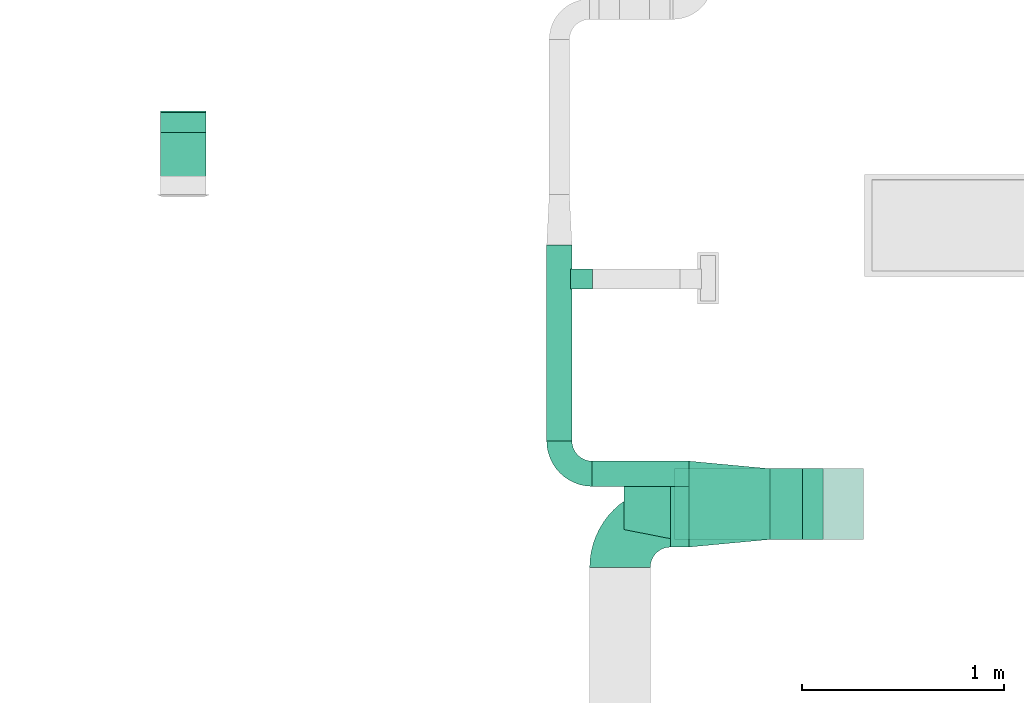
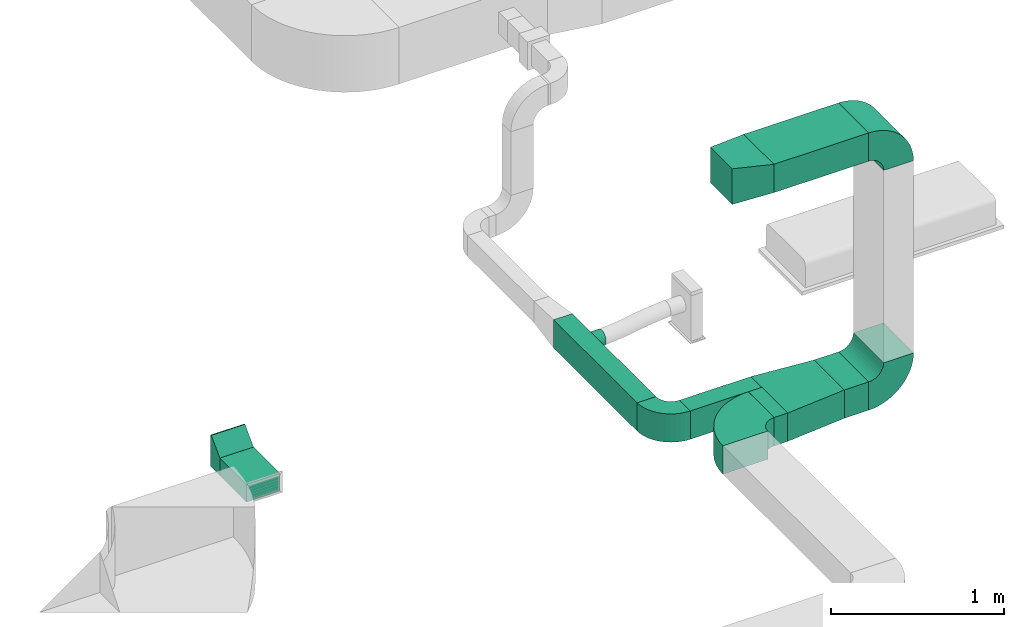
# One storey, part 27 of 60: 8 flow fittings, 6 flow segments.
"""IFC2X3 building model written with IfcOpenShell, lengths in millimetres."""

from ifc_helpers import new_model, entity, si_unit, converted_unit, derived_unit, direction, frame, frame_2d, origin, origin_2d_with_axis, place, context, subcontext, project, spatial, polyline, circle_curve, parameter, trimmed, segment, composite_curve, rectangle, outline, extrude, faceted_brep, source, transform, mapped, material, type_object, type_shapes, element, save


model = new_model("IFC2X3")

# Units and contexts
model_context = context("Model", 3, precision=0.01, world=origin(), true_north=direction((6.123233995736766e-17, 1.0)))
body_context = subcontext(model_context, "Body", "Model", "MODEL_VIEW")
ifc_project = project(units=[si_unit("LENGTHUNIT", "METRE", prefix="MILLI"), converted_unit("PLANEANGLEUNIT", "DEGREE", entity("IfcPlaneAngleMeasure", 0.017453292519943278), si_unit("PLANEANGLEUNIT", "RADIAN"), dimensions=[0, 0, 0, 0, 0, 0, 0]), si_unit("AREAUNIT", "SQUARE_METRE"), derived_unit("THERMALTRANSMITTANCEUNIT", [(si_unit("MASSUNIT", "GRAM", prefix="KILO"), 1), (si_unit("THERMODYNAMICTEMPERATUREUNIT", "KELVIN"), -1), (si_unit("TIMEUNIT", "SECOND"), -3)])], contexts=[model_context])

# Site, building, storey
site_placement = place(None, origin())
site = spatial("IfcSite", under=ifc_project, at=site_placement, Name="Default", CompositionType="ELEMENT")
building_placement = place(site_placement, origin())
building = spatial("IfcBuilding", under=site, at=building_placement, Name="Praça Pedro II, 1301 - Centro (Sul), Teresina - PI, 64001-100", CompositionType="ELEMENT")
storey_placement = place(building_placement, frame((0.0, 0.0, 6040.0)))
storey = spatial("IfcBuildingStorey", under=building, at=storey_placement, Name="2PAV", CompositionType="ELEMENT", Elevation=6040.0)

# Flow segments
duct_segment_type = type_object("IfcDuctSegmentType", Name="Duto retangular:Raios cotovelos / torneiras", PredefinedType="NOTDEFINED")
flow_segment_1_placement = place(storey_placement, origin())
element("IfcFlowSegment", 1, at=flow_segment_1_placement, inside=storey, type_object=duct_segment_type, Name="Duto retangular:Raios cotovelos / torneiras", ObjectType="Duto retangular:Raios cotovelos / torneiras", context=body_context, shape_type="SweptSolid", body=[
    extrude(rectangle(XDim=306.2258346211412, YDim=225.00000000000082, at=frame_2d((4.334310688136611e-12, 0.0), x_axis=(1.0, 0.0))), frame((34186.88553093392, -64896.22932506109, 1978.5000001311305), z_axis=(0.0, 0.0, 1.0), x_axis=(0.0, 1.0, 0.0)), (0.0, 0.0, 1.0), 124.99999999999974),
])
flow_segment_2_placement = place(storey_placement, origin())
element("IfcFlowSegment", 2, at=flow_segment_2_placement, inside=storey, type_object=duct_segment_type, Name="Duto retangular:Raios cotovelos / torneiras", ObjectType="Duto retangular:Raios cotovelos / torneiras", context=body_context, shape_type="SweptSolid", body=[
    extrude(rectangle(XDim=967.1188237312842, YDim=125.0000000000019, at=frame_2d((4.348521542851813e-12, 2.1671553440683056e-12), x_axis=(1.0, 0.0))), frame((36045.36892569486, -65782.90165423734, 2550.0), z_axis=(0.0, 0.0, 1.0), x_axis=(0.0, -1.0, 0.0)), (0.0, 0.0, 1.0), 200.0),
])
flow_segment_3_placement = place(storey_placement, origin())
element("IfcFlowSegment", 3, at=flow_segment_3_placement, inside=storey, type_object=duct_segment_type, Name="Duto retangular:Raios cotovelos / torneiras", ObjectType="Duto retangular:Raios cotovelos / torneiras", context=body_context, shape_type="SweptSolid", body=[
    extrude(rectangle(XDim=90.41113618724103, YDim=300.0000000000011, at=origin_2d_with_axis()), frame((36640.57449378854, -66641.461066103, 2550.0)), (0.0, 0.0, 1.0), 200.0),
])
flow_segment_4_placement = place(storey_placement, origin())
element("IfcFlowSegment", 4, at=flow_segment_4_placement, inside=storey, type_object=duct_segment_type, Name="Duto retangular:Raios cotovelos / torneiras", ObjectType="Duto retangular:Raios cotovelos / torneiras", context=body_context, shape_type="SweptSolid", body=[
    extrude(rectangle(XDim=162.8410096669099, YDim=349.9999999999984, at=frame_2d((0.0, 4.334310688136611e-12), x_axis=(1.0, 0.0))), frame((37167.20056671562, -66578.96106610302, 2550.0)), (0.0, 0.0, 1.0), 200.0),
])
flow_segment_5_placement = place(storey_placement, origin())
element("IfcFlowSegment", 5, at=flow_segment_5_placement, inside=storey, type_object=duct_segment_type, Name="Duto retangular:Raios cotovelos / torneiras", ObjectType="Duto retangular:Raios cotovelos / torneiras", context=body_context, shape_type="SweptSolid", body=[
    extrude(rectangle(XDim=477.9111361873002, YDim=124.99999999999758, at=frame_2d((0.0, -4.330757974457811e-12), x_axis=(1.0, 0.0))), frame((36446.82449378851, -66428.96106610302, 2550.0), z_axis=(0.0, 0.0, 1.0), x_axis=(-1.0, 0.0, 0.0)), (0.0, 0.0, 1.0), 200.0),
])
flow_segment_6_placement = place(storey_placement, origin())
element("IfcFlowSegment", 6, at=flow_segment_6_placement, inside=storey, type_object=duct_segment_type, Name="Duto retangular:Raios cotovelos / torneiras", ObjectType="Duto retangular:Raios cotovelos / torneiras", context=body_context, shape_type="SweptSolid", body=[
    extrude(rectangle(XDim=633.5228945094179, YDim=349.9999999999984, at=frame_2d((-2.1600499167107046e-12, 4.334310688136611e-12), x_axis=(1.0, 0.0))), frame((36931.85962429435, -66578.96106610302, 4309.0), z_axis=(0.0, 0.0, 1.0), x_axis=(-1.0, 0.0, 0.0)), (0.0, 0.0, 1.0), 200.0000000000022),
])

# Flow fittings
ifc_material = material(Name="<Unnamed>")
duct_fitting_type_1 = type_object("IfcDuctFittingType", Name="M_Rectangular Tap - Beveled:Standard", PredefinedType="NOTDEFINED", material=ifc_material)
shared_shape_1 = source(origin(), body_context, "Body", "SweptSolid", [
    extrude(outline(polyline([(-115.0, -62.438399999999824), (10.0, -62.438399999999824), (110.0, 37.56159999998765), (110.0, 43.6576000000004), (-115.0, 43.65759999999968), (-115.0, -62.438399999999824)])), frame((37.56160000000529, 52.50000000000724, -112.49999999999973), z_axis=(0.0, 0.0, 1.0), x_axis=(0.0, 1.0, 0.0)), (0.0, 0.0, 1.0), 224.99999999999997),
])
type_shapes(duct_fitting_type_1, [shared_shape_1])
flow_fitting_1_placement = place(storey_placement, frame((34186.88553093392, -64643.1164077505, 2041.0000001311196), z_axis=(-1.0, 0.0, 0.0), x_axis=(0.0, -1.0, 0.0)))
element("IfcFlowFitting", 7, at=flow_fitting_1_placement, inside=storey, type_object=duct_fitting_type_1, material=ifc_material, Name="M_Rectangular Tap - Beveled:Standard", ObjectType="M_Rectangular Tap - Beveled:Standard", context=body_context, shape_type="MappedRepresentation", body=[
    mapped(shared_shape_1, transform((0.0, 0.0, 0.0), scale=1.0)),
])
duct_fitting_type_2 = type_object("IfcDuctFittingType", Name="M_Encaixe de duto redondo:Padrão", PredefinedType="NOTDEFINED", material=ifc_material)
shared_shape_2 = source(origin(), body_context, "Body", "Brep", [
    faceted_brep([(101.60000000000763, 50.0, 0.0), (101.60000000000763, 48.296291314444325, 12.940952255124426), (101.60000000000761, 43.301270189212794, 25.0), (101.6000000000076, 35.35533905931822, 35.35533905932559), (101.60000000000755, 25.0, 43.30127018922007), (101.60000000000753, 12.94095225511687, 48.29629131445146), (101.6000000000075, 0.0, 50.0), (101.60000000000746, -12.940952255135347, 48.29629131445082), (101.60000000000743, -25.0, 43.30127018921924), (101.6000000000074, -35.35533905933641, 35.355339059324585), (101.60000000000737, -43.301270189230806, 25.0), (101.60000000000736, -48.296291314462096, 12.940952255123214), (101.60000000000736, -50.0, 0.0), (101.60000000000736, -48.29629131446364, -12.94095225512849), (101.60000000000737, -43.301270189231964, -25.0), (101.6000000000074, -35.35533905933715, -35.35533905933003), (101.60000000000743, -25.0, -43.30127018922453), (101.60000000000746, -12.94095225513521, -48.29629131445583), (101.6000000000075, 0.0, -50.0), (101.60000000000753, 12.9409522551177, -48.29629131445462), (101.60000000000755, 25.0, -43.30127018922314), (101.6000000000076, 35.35533905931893, -35.35533905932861), (101.60000000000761, 43.30127018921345, -25.0), (101.60000000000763, 48.2962913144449, -12.940952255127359), (0.0, 12.940952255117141, 48.29629131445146), (-6.0959999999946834, 12.94095225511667, 48.29629131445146), (-6.095999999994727, 0.0, 50.0), (0.0, 0.0, 50.0), (0.0, 25.0, 43.30127018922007), (-6.0959999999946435, 25.0, 43.30127018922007), (0.0, 35.35533905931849, 35.35533905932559), (-6.095999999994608, 35.35533905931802, 35.35533905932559), (0.0, 48.296291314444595, 12.940952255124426), (-6.095999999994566, 48.296291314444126, 12.940952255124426), (-6.095999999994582, 43.3012701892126, 25.0), (0.0, 43.301270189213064, 25.0), (0.0, 50.0, 0.0), (-6.09599999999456, 50.0, 0.0), (0.0, 43.30127018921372, -25.0), (-6.095999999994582, 43.30127018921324, -25.0), (-6.095999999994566, 48.296291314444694, -12.940952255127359), (0.0, 48.29629131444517, -12.940952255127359), (0.0, 35.3553390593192, -35.35533905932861), (-6.095999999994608, 35.35533905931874, -35.35533905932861), (0.0, 12.940952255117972, -48.29629131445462), (-6.0959999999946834, 12.940952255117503, -48.29629131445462), (-6.0959999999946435, 25.0, -43.30127018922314), (0.0, 25.0, -43.30127018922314), (0.0, 0.0, -50.0), (-6.095999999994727, 0.0, -50.0), (0.0, -12.940952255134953, -48.29629131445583), (-6.09599999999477, -12.940952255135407, -48.29629131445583), (0.0, -25.0, -43.30127018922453), (-6.0959999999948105, -25.0, -43.30127018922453), (0.0, -35.35533905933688, -35.35533905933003), (-6.095999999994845, -35.355339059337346, -35.35533905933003), (0.0, -48.29629131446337, -12.94095225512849), (-6.095999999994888, -48.29629131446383, -12.94095225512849), (-6.095999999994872, -43.30127018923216, -25.0), (0.0, -43.301270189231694, -25.0), (0.0, -50.0, 0.0), (-6.095999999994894, -50.0, 0.0), (0.0, -48.296291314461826, 12.940952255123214), (-6.095999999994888, -48.296291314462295, 12.940952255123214), (0.0, -43.30127018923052, 25.0), (-6.095999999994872, -43.301270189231, 25.0), (0.0, -35.35533905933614, 35.355339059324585), (-6.095999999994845, -35.35533905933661, 35.355339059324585), (0.0, -12.940952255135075, 48.29629131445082), (-6.09599999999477, -12.940952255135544, 48.29629131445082), (-6.0959999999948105, -25.0, 43.30127018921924), (0.0, -25.0, 43.30127018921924)], [[[0, 1, 2, 3, 4, 5, 6, 7, 8, 9, 10, 11, 12, 13, 14, 15, 16, 17, 18, 19, 20, 21, 22, 23]], [[24, 25, 26, 27, 6, 5]], [[28, 29, 25, 24, 5, 4]], [[4, 3, 30, 31, 29, 28]], [[32, 33, 34, 35, 2, 1]], [[36, 37, 33, 32, 1, 0]], [[3, 2, 35, 34, 31, 30]], [[23, 22, 38, 39, 40, 41]], [[0, 23, 41, 40, 37, 36]], [[22, 21, 42, 43, 39, 38]], [[44, 45, 46, 47, 20, 19]], [[48, 49, 45, 44, 19, 18]], [[21, 20, 47, 46, 43, 42]], [[50, 51, 49, 48, 18, 17]], [[52, 53, 51, 50, 17, 16]], [[16, 15, 54, 55, 53, 52]], [[56, 57, 58, 59, 14, 13]], [[60, 61, 57, 56, 13, 12]], [[15, 14, 59, 58, 55, 54]], [[62, 63, 61, 60, 12, 11]], [[64, 65, 63, 62, 11, 10]], [[10, 9, 66, 67, 65, 64]], [[68, 69, 70, 71, 8, 7]], [[27, 26, 69, 68, 7, 6]], [[9, 8, 71, 70, 67, 66]], [[49, 51, 53, 55, 58, 57, 61, 63, 65, 67, 70, 69, 26, 25, 29, 31, 34, 33, 37, 40, 39, 43, 46, 45]]]),
])
type_shapes(duct_fitting_type_2, [shared_shape_2])
flow_fitting_2_placement = place(storey_placement, frame((36107.86892569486, -65466.41699191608, 2650.0), z_axis=(0.0, 0.0, -1.0), x_axis=(1.0, 0.0, 0.0)))
element("IfcFlowFitting", 8, at=flow_fitting_2_placement, inside=storey, type_object=duct_fitting_type_2, material=ifc_material, Name="M_Encaixe de duto redondo:Padrão", ObjectType="M_Encaixe de duto redondo:Padrão", context=body_context, shape_type="MappedRepresentation", body=[
    mapped(shared_shape_2, transform((0.0, 0.0, 0.0), scale=1.0)),
])
duct_fitting_type_3 = type_object("IfcDuctFittingType", Name="BTS vanes:1 Splitter Vanes", PredefinedType="NOTDEFINED", material=ifc_material)
shared_shape_3 = source(origin(), body_context, "Body", "SweptSolid", [
    extrude(outline(composite_curve([segment(polyline([(-275.0, -125.0), (25.0, -125.0)]), True, "CONTINUOUS"), segment(trimmed(circle_curve(frame_2d((125.0, -125.0), x_axis=(0.0, 1.0)), 99.99999999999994), [parameter(0.0)], [parameter(90.00000000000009)], True, "PARAMETER"), False, "CONTINUOUS"), segment(polyline([(125.0, -25.0), (125.0, 275.0)]), True, "CONTINUOUS"), segment(trimmed(circle_curve(frame_2d((125.0, -125.0), x_axis=(0.0, 1.0)), 400.0), [parameter(0.0)], [parameter(90.00000000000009)], True, "PARAMETER"), True, "CONTINUOUS")], self_intersect=False)), frame((-125.0, 125.0, -100.0), z_axis=(0.0, 0.0, 1.0), x_axis=(-1.0, 0.0, 0.0)), (0.0, 0.0, 1.0), 200.0),
    extrude(outline(composite_curve([segment(polyline([(-77.63157894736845, -59.21052631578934), (-40.78947368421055, -59.21052631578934)]), True, "CONTINUOUS"), segment(trimmed(circle_curve(frame_2d((59.21052631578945, -59.21052631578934), x_axis=(0.0, 1.0)), 100.0), [parameter(0.0)], [parameter(90.00000000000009)], True, "PARAMETER"), False, "CONTINUOUS"), segment(polyline([(59.21052631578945, 40.78947368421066), (59.21052631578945, 77.63157894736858)]), True, "CONTINUOUS"), segment(trimmed(circle_curve(frame_2d((59.21052631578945, -59.21052631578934), x_axis=(0.0, 1.0)), 136.84210526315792), [parameter(0.0)], [parameter(90.00000000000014)], True, "PARAMETER"), True, "CONTINUOUS")], self_intersect=False)), frame((-190.78947368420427, 190.78947368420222, -100.0), z_axis=(0.0, 0.0, 1.0), x_axis=(-1.0, 0.0, 0.0)), (0.0, 0.0, 1.0), 200.0),
])
type_shapes(duct_fitting_type_3, [shared_shape_3])
flow_fitting_3_placement = place(storey_placement, frame((36345.36892569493, -66641.46106610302, 2650.0), z_axis=(0.0, 0.0, 1.0), x_axis=(-1.0, 0.0, 0.0)))
element("IfcFlowFitting", 9, at=flow_fitting_3_placement, inside=storey, type_object=duct_fitting_type_3, material=ifc_material, Name="BTS vanes:1 Splitter Vanes", ObjectType="BTS vanes:1 Splitter Vanes", context=body_context, shape_type="MappedRepresentation", body=[
    mapped(shared_shape_3, transform((0.0, 0.0, 0.0), scale=1.0)),
])
duct_fitting_type_4 = type_object("IfcDuctFittingType", Name="BTS vanes:1 Splitter Vanes", PredefinedType="NOTDEFINED", material=ifc_material)
shared_shape_4 = source(origin(), body_context, "Body", "SweptSolid", [
    extrude(outline(composite_curve([segment(polyline([(-200.0, -100.0), (0.0, -100.0)]), True, "CONTINUOUS"), segment(trimmed(circle_curve(frame_2d((100.0, -100.0), x_axis=(0.0, 1.0)), 99.99999999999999), [parameter(0.0)], [parameter(90.00000000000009)], True, "PARAMETER"), False, "CONTINUOUS"), segment(polyline([(100.0, 0.0), (100.0, 200.0)]), True, "CONTINUOUS"), segment(trimmed(circle_curve(frame_2d((100.0, -100.0), x_axis=(0.0, 1.0)), 300.0), [parameter(0.0)], [parameter(90.00000000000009)], True, "PARAMETER"), True, "CONTINUOUS")], self_intersect=False)), frame((-100.0, 100.0, -175.0), z_axis=(0.0, 0.0, 1.0), x_axis=(-1.0, 0.0, 0.0)), (0.0, 0.0, 1.0), 350.0),
    extrude(outline(composite_curve([segment(polyline([(-77.63157894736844, -59.21052631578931), (-40.789473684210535, -59.21052631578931)]), True, "CONTINUOUS"), segment(trimmed(circle_curve(frame_2d((59.21052631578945, -59.21052631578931), x_axis=(0.0, 1.0)), 99.99999999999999), [parameter(0.0)], [parameter(90.00000000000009)], True, "PARAMETER"), False, "CONTINUOUS"), segment(polyline([(59.21052631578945, 40.78947368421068), (59.21052631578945, 77.63157894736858)]), True, "CONTINUOUS"), segment(trimmed(circle_curve(frame_2d((59.21052631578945, -59.21052631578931), x_axis=(0.0, 1.0)), 136.84210526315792), [parameter(0.0)], [parameter(90.00000000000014)], True, "PARAMETER"), True, "CONTINUOUS")], self_intersect=False)), frame((-140.78947368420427, 140.78947368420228, -175.0), z_axis=(0.0, 0.0, 1.0), x_axis=(-1.0, 0.0, 0.0)), (0.0, 0.0, 1.0), 350.0),
])
type_shapes(duct_fitting_type_4, [shared_shape_4])
for number, where, z_axis, x_axis, name in (
    (10, (37448.62107154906, -66578.96106610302, 2650.0), (0.0, -1.0, 0.0), (1.0, 0.0, 0.0), "BTS vanes:1 Splitter Vanes"),
    (11, (37448.62107154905, -66578.96106610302, 4409.0), (0.0, -1.0, 0.0), (0.0, 0.0, 1.0), "BTS vanes:1 Splitter Vanes"),
):
    element("IfcFlowFitting", number, at=place(storey_placement, frame(where, z_axis=z_axis, x_axis=x_axis)), inside=storey, type_object=duct_fitting_type_4, material=ifc_material, Name=name, ObjectType="BTS vanes:1 Splitter Vanes", context=body_context, shape_type="MappedRepresentation", body=[
        mapped(shared_shape_4, transform((0.0, 0.0, 0.0), scale=1.0)),
    ])
duct_fitting_type_5 = type_object("IfcDuctFittingType", Name="M_Rectangular Transition - L:250 mm (L)", PredefinedType="NOTDEFINED", material=ifc_material)
shared_shape_5 = source(origin(), body_context, "Body", "Brep", [
    faceted_brep([(250.0, -125.95000000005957, 125.94999999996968), (250.0, -125.95000000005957, -125.95000000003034), (250.0, 125.94999999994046, -125.95000000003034), (250.0, 125.94999999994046, 125.94999999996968), (0.0, -175.0, 100.0), (0.0, 175.0, 100.0), (0.0, 175.0, -100.0), (0.0, -175.0, -100.0)], [[[0, 1, 2, 3]], [[4, 5, 6, 7]], [[4, 7, 1, 0]], [[7, 6, 2, 1]], [[6, 5, 3, 2]], [[5, 4, 0, 3]]]),
])
type_shapes(duct_fitting_type_5, [shared_shape_5])
flow_fitting_4_placement = place(storey_placement, frame((36615.09817703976, -66578.96106610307, 4409.0), z_axis=(0.0, 0.0, 1.0), x_axis=(-1.0, 0.0, 0.0)))
element("IfcFlowFitting", 12, at=flow_fitting_4_placement, inside=storey, type_object=duct_fitting_type_5, material=ifc_material, Name="M_Rectangular Transition - L:250 mm (L)", ObjectType="M_Rectangular Transition - L:250 mm (L)", context=body_context, shape_type="MappedRepresentation", body=[
    mapped(shared_shape_5, transform((0.0, 0.0, 0.0), scale=1.0)),
])
duct_fitting_type_6 = type_object("IfcDuctFittingType", Name="M_Rectangular Transition - Length x2:300+125", PredefinedType="NOTDEFINED", material=ifc_material)
shared_shape_6 = source(origin(), body_context, "Body", "SweptSolid", [
    extrude(outline(polyline([(-218.96174580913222, -192.90413129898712), (182.79222119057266, -192.90413129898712), (215.4614692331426, 155.56784782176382), (-179.29194461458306, 230.24041477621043), (-218.96174580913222, -192.90413129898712)])), frame((200.0, 0.0, -100.0), z_axis=(0.0, 0.0, 1.0), x_axis=(0.9956342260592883, 0.09334070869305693, 0.0)), (0.0, 0.0, 1.0), 199.99999999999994),
])
type_shapes(duct_fitting_type_6, [shared_shape_6])
flow_fitting_5_placement = place(storey_placement, frame((36685.780061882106, -66578.96106610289, 2650.0)))
element("IfcFlowFitting", 13, at=flow_fitting_5_placement, inside=storey, type_object=duct_fitting_type_6, material=ifc_material, Name="M_Rectangular Transition - Length x2:300+125", ObjectType="M_Rectangular Transition - Length x2:300+125", context=body_context, shape_type="MappedRepresentation", body=[
    mapped(shared_shape_6, transform((0.0, 0.0, 0.0), scale=1.0)),
])
duct_fitting_type_7 = type_object("IfcDuctFittingType", Name="BTS vanes:1 Splitter Vanes", PredefinedType="NOTDEFINED", material=ifc_material)
shared_shape_7 = source(origin(), body_context, "Body", "SweptSolid", [
    extrude(outline(composite_curve([segment(polyline([(-143.74999999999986, -81.24999999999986), (-18.749999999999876, -81.24999999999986)]), True, "CONTINUOUS"), segment(trimmed(circle_curve(frame_2d((81.25000000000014, -81.24999999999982), x_axis=(0.0, 1.0)), 100.0), [parameter(0.0)], [parameter(89.99999999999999)], True, "PARAMETER"), False, "CONTINUOUS"), segment(polyline([(81.24999999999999, 18.750000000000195), (81.24999999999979, 143.7500000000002)]), True, "CONTINUOUS"), segment(trimmed(circle_curve(frame_2d((81.25000000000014, -81.24999999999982), x_axis=(0.0, 1.0)), 225.00000000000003), [parameter(0.0)], [parameter(89.99999999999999)], True, "PARAMETER"), True, "CONTINUOUS")], self_intersect=False)), frame((-81.24999999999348, 81.24999999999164, -100.0), z_axis=(0.0, 0.0, 1.0), x_axis=(-1.0, 0.0, 0.0)), (0.0, 0.0, 1.0), 200.0),
    extrude(outline(composite_curve([segment(polyline([(-77.63157894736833, -59.210526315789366), (-40.78947368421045, -59.21052631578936)]), True, "CONTINUOUS"), segment(trimmed(circle_curve(frame_2d((59.21052631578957, -59.21052631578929), x_axis=(0.0, 1.0)), 100.0), [parameter(0.0)], [parameter(90.00000000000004)], True, "PARAMETER"), False, "CONTINUOUS"), segment(polyline([(59.210526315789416, 40.78947368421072), (59.21052631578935, 77.63157894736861)]), True, "CONTINUOUS"), segment(trimmed(circle_curve(frame_2d((59.21052631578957, -59.21052631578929), x_axis=(0.0, 1.0)), 136.8421052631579), [parameter(0.0)], [parameter(89.99999999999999)], True, "PARAMETER"), True, "CONTINUOUS")], self_intersect=False)), frame((-103.28947368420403, 103.28947368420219, -100.0), z_axis=(0.0, 0.0, 1.0), x_axis=(-1.0, 0.0, 0.0)), (0.0, 0.0, 1.0), 200.0),
])
type_shapes(duct_fitting_type_7, [shared_shape_7])
flow_fitting_6_placement = place(storey_placement, frame((36045.36892569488, -66428.96106610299, 2650.0), z_axis=(0.0, 0.0, 1.0), x_axis=(0.0, -1.0, 0.0)))
element("IfcFlowFitting", 14, at=flow_fitting_6_placement, inside=storey, type_object=duct_fitting_type_7, material=ifc_material, Name="BTS vanes:1 Splitter Vanes", ObjectType="BTS vanes:1 Splitter Vanes", context=body_context, shape_type="MappedRepresentation", body=[
    mapped(shared_shape_7, transform((0.0, 0.0, 0.0), scale=1.0)),
])

save(model, "model.ifc")
